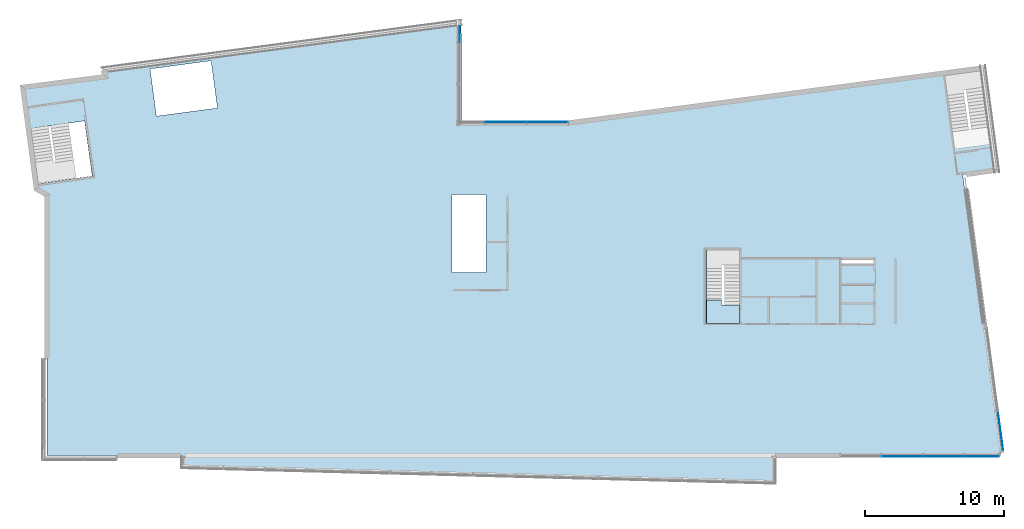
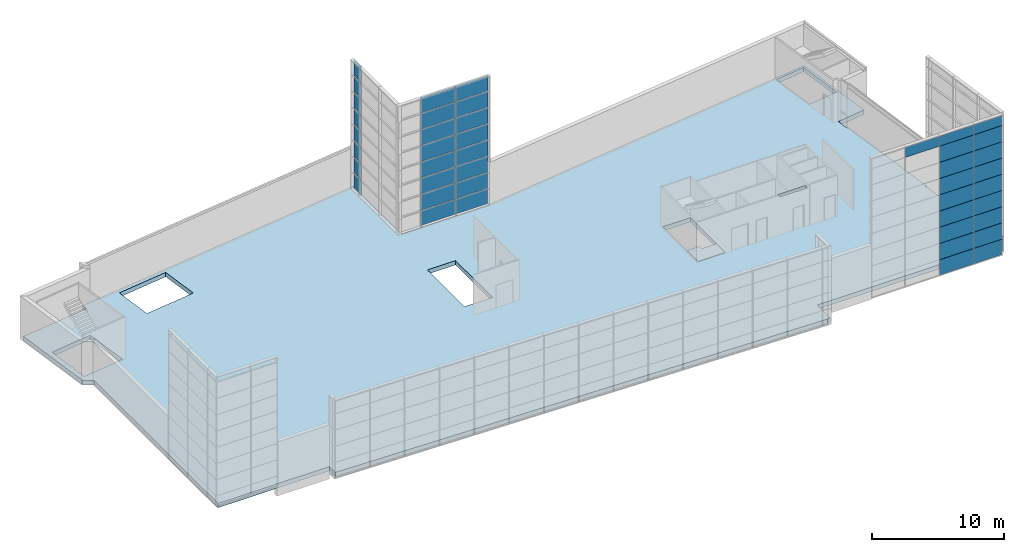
# One storey, part 17 of 27: 44 plates, 2 slabs, 6 openings, 4 elements without a shape of their own.
"""IFC2X3 building model written with IfcOpenShell, lengths in metres."""

from ifc_helpers import new_model, entity, si_unit, converted_unit, money_unit, direction, frame, origin_with_axes, place, context, subcontext, project, spatial, polyline, outline, extrude, material, layer, layer_set, layer_usage, type_object, element, aggregate, save


model = new_model("IFC2X3")

# Units and contexts
model_context = context("Model", 3, precision=1e-05, world=origin_with_axes(), true_north=direction((0.0, 1.0)))
body_context = subcontext(model_context, "Body", "Model", "MODEL_VIEW")
ifc_project = project(units=[si_unit("LENGTHUNIT", "METRE"), si_unit("AREAUNIT", "SQUARE_METRE"), si_unit("VOLUMEUNIT", "CUBIC_METRE"), converted_unit("PLANEANGLEUNIT", "DEGREE", entity("IfcPlaneAngleMeasure", 0.0174532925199), si_unit("PLANEANGLEUNIT", "RADIAN"), dimensions=[0, 0, 0, 0, 0, 0, 0]), si_unit("SOLIDANGLEUNIT", "STERADIAN"), money_unit("EUR"), converted_unit("TIMEUNIT", "Year", entity("IfcTimeMeasure", 31556926.0), si_unit("TIMEUNIT", "SECOND"), dimensions=[0, 0, 0, 0, 0, 0, 0]), si_unit("MASSUNIT", "GRAM"), si_unit("THERMODYNAMICTEMPERATUREUNIT", "DEGREE_CELSIUS"), si_unit("LUMINOUSINTENSITYUNIT", "LUMEN")], contexts=[model_context])

# Site, building, storey
site_placement = place(None, origin_with_axes())
site = spatial("IfcSite", under=ifc_project, at=site_placement, Name="Undefined", CompositionType="ELEMENT")
building_placement = place(site_placement, origin_with_axes())
building = spatial("IfcBuilding", under=site, at=building_placement, Name="Undefined", CompositionType="ELEMENT")
storey_placement = place(building_placement, frame((0.0, 0.0, 5.4), z_axis=(0.0, 0.0, 1.0), x_axis=(1.0, 0.0, 0.0)))
storey = spatial("IfcBuildingStorey", under=building, at=storey_placement, Name="R+1", CompositionType="ELEMENT", Elevation=5.4)

# Slab
ifc_material_1 = material(Name="% Ê25 359672764")
ifc_layer_1 = layer(ifc_material_1, 0.2, ventilated="UNKNOWN")
ifc_layer_set_1 = layer_set([ifc_layer_1], Name="% Ê25 359672764 0.2")
ifc_layer_usage_1 = layer_usage(ifc_layer_set_1, "AXIS3", "NEGATIVE", 0.2)
slab_type_1 = type_object("IfcSlabType", Name="% Ê25 359672764 200", PredefinedType="FLOOR")
slab_1_placement = place(storey_placement, frame((47.265, 9.3, 0.0), z_axis=(0.0, 0.0, 1.0), x_axis=(1.0, 0.0, 0.0)))
element("IfcSlab", 1, at=slab_1_placement, inside=storey, type_object=slab_type_1, material=ifc_layer_usage_1, Name="SLAB", ObjectType="200*31407", PredefinedType="FLOOR", context=body_context, shape_type="SweptSolid", body=[
    extrude(outline(polyline([(0.0, 0.0), (2.39499998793, 0.0), (2.39499998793, 1.34137656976), (1.08826671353, 1.34137656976), (1.08826671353, 1.69137656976), (0.0, 1.69137656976), (0.0, 0.0)])), frame((0.0, 0.0, -0.2), z_axis=(0.0, 0.0, 1.0), x_axis=(1.0, 0.0, 0.0)), (0.0, 0.0, 1.0), 0.2),
])

# Slab, openings
ifc_material_2 = material(Name="Finition sol - Parquet")
ifc_layer_2 = layer(ifc_material_2, 0.015, ventilated="UNKNOWN")
ifc_material_3 = material(Name="Struct. - Chape")
ifc_layer_3 = layer(ifc_material_3, 0.045, ventilated="UNKNOWN")
ifc_material_4 = material(Name="Isolation Int. - Polyur\x8ethane")
ifc_layer_4 = layer(ifc_material_4, 0.04, ventilated="UNKNOWN")
ifc_material_5 = material(Name="Struct. - B.A. coul\x8e")
ifc_layer_5 = layer(ifc_material_5, 0.18, ventilated="UNKNOWN")
ifc_material_6 = material(Name="Isolation - Polystyr\x8fne extrud\x8e")
ifc_layer_6 = layer(ifc_material_6, 0.1, ventilated="UNKNOWN")
ifc_material_7 = material(Name="Finition int - Enduit pl\x89tre")
ifc_layer_7 = layer(ifc_material_7, 0.02, ventilated="UNKNOWN")
ifc_layer_set_2 = layer_set([ifc_layer_2, ifc_layer_3, ifc_layer_4, ifc_layer_5, ifc_layer_6, ifc_layer_7], Name="5.0-Dalle& Chape avec sous-face isol\x8ee + bois (d\x8etaill\x8e)")
ifc_layer_usage_2 = layer_usage(ifc_layer_set_2, "AXIS3", "NEGATIVE", 0.4)
slab_type_2 = type_object("IfcSlabType", Name="5.0-Dalle& Chape avec sous-face isol\x8ee + bois (d\x8etaill\x8e) 400", PredefinedType="FLOOR")
slab_2_placement = place(storey_placement, frame((-1.93106549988, 26.3060489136, 0.0), z_axis=(0.0, 0.0, 1.0), x_axis=(1.0, 0.0, 0.0)))
slab_2 = element("IfcSlab", 2, at=slab_2_placement, inside=storey, type_object=slab_type_2, material=ifc_layer_usage_2, Name="SLAB", ObjectType="200*31407", PredefinedType="FLOOR", context=body_context, shape_type="SweptSolid", body=[
    extrude(outline(polyline([(0.0, 0.0), (0.975686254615, -7.31239886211), (1.73606549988, -7.76460235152), (1.73606549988, -26.5010481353), (11.4827447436, -26.5010481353), (11.4827447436, -27.3954981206), (53.9054972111, -28.4886697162), (53.9054972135, -28.4640088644), (54.1560652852, -28.4523480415), (54.1560654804, -26.5010489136), (70.3779493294, -26.5064751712), (70.3328827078, -26.0383576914), (69.133434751, -17.1013292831), (69.0860610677, -17.1051703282), (69.0726850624, -17.0060693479), (69.1837012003, -16.9912566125), (67.8990987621, -7.3636211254), (67.788061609, -7.37827743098), (67.6463141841, -6.31593133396), (70.0856348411, -5.96229649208), (69.1108208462, 1.39871774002), (39.1472831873, -2.58301230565), (31.5823969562, -2.62646119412), (31.5520595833, 4.66363038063), (5.89926228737, 1.26694263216), (5.96531416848, 0.771910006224), (0.0, 0.0)])), frame((0.0, 0.0, -0.4), z_axis=(0.0, 0.0, 1.0), x_axis=(1.0, 0.0, 0.0)), (0.0, 0.0, 1.0), 0.4),
])
opening_1_placement = place(slab_2_placement, origin_with_axes())
element("IfcOpeningElement", 3, at=opening_1_placement, cuts=slab_2, Name="Slab Opening", context=body_context, shape_type="SweptSolid", body=[
    extrude(outline(polyline([(1.35569683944, -6.89883312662), (4.99784324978, -6.38696750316), (4.44744077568, -2.41828389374), (0.846339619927, -2.93126827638), (1.35569683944, -6.89883312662)])), frame((0.0, 0.0, -0.4), z_axis=(0.0, 0.0, 1.0), x_axis=(1.0, 0.0, 0.0)), (0.0, 0.0, 1.0), 0.4),
])
opening_2_placement = place(slab_2_placement, origin_with_axes())
element("IfcOpeningElement", 4, at=opening_2_placement, cuts=slab_2, Name="Slab Opening", context=body_context, shape_type="SweptSolid", body=[
    extrude(outline(polyline([(9.61904479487, -2.0813231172), (14.0101296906, -1.49542770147), (13.5564905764, 1.9044416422), (9.16540568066, 1.31854622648), (9.61904479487, -2.0813231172)])), frame((0.0, 0.0, -0.4), z_axis=(0.0, 0.0, 1.0), x_axis=(1.0, 0.0, 0.0)), (0.0, 0.0, 1.0), 0.4),
])
opening_3_placement = place(slab_2_placement, origin_with_axes())
element("IfcOpeningElement", 5, at=opening_3_placement, cuts=slab_2, Name="Slab Opening", context=body_context, shape_type="SweptSolid", body=[
    extrude(outline(polyline([(33.3498058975, -13.3259802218), (33.3498298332, -7.72649718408), (30.8898315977, -7.72648603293), (30.8898315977, -13.3259802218), (33.3498058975, -13.3259802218)])), frame((0.0, 0.0, -0.4), z_axis=(0.0, 0.0, 1.0), x_axis=(1.0, 0.0, 0.0)), (0.0, 0.0, 1.0), 0.4),
])
opening_4_placement = place(slab_2_placement, origin_with_axes())
element("IfcOpeningElement", 6, at=opening_4_placement, cuts=slab_2, Name="Slab Opening", context=body_context, shape_type="SweptSolid", body=[
    extrude(outline(polyline([(49.1960654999, -11.6960836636), (49.1960654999, -17.0060489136), (51.5910654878, -17.0060489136), (51.5910654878, -11.6960836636), (49.1960654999, -11.6960836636)])), frame((0.0, 0.0, -0.4), z_axis=(0.0, 0.0, 1.0), x_axis=(1.0, 0.0, 0.0)), (0.0, 0.0, 1.0), 0.4),
])
opening_5_placement = place(slab_2_placement, origin_with_axes())
element("IfcOpeningElement", 7, at=opening_5_placement, cuts=slab_2, Name="Slab Opening", context=body_context, shape_type="SweptSolid", body=[
    extrude(outline(polyline([(58.8560654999, -12.3810489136), (58.8560654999, -12.7310489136), (61.2560654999, -12.7310489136), (61.2560654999, -12.3810489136), (58.8560654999, -12.3810489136)])), frame((0.0, 0.0, -0.4), z_axis=(0.0, 0.0, 1.0), x_axis=(1.0, 0.0, 0.0)), (0.0, 0.0, 1.0), 0.4),
])
opening_6_placement = place(slab_2_placement, origin_with_axes())
element("IfcOpeningElement", 8, at=opening_6_placement, cuts=slab_2, Name="Slab Opening", context=body_context, shape_type="SweptSolid", body=[
    extrude(outline(polyline([(66.8996301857, -3.20822175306), (69.4830926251, -2.86065248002), (68.9431202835, 1.17971852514), (66.3553150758, 0.835280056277), (66.8996301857, -3.20822175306)])), frame((0.0, 0.0, -0.4), z_axis=(0.0, 0.0, 1.0), x_axis=(1.0, 0.0, 0.0)), (0.0, 0.0, 1.0), 0.4),
])

# Curtain wall, plates
curtain_wall_type = type_object("IfcCurtainWallType", Name="Type de mur-rideau", PredefinedType="NOTDEFINED")
curtain_wall_1_placement = place(storey_placement, frame((35.8499996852, 23.7940983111, 0.0), z_axis=(0.0, 0.0, 1.0), x_axis=(1.0, 0.0, 0.0)))
curtain_wall_1 = element("IfcCurtainWall", 9, at=curtain_wall_1_placement, inside=storey, type_object=curtain_wall_type, Name="CurtainWall_01", ObjectType="CURTAIN WALL")
ifc_material_8 = material(Name="Background 7019220")
plate_type_1 = type_object("IfcPlateType", Name="Panneau principal 2920 x 1490 x 20", PredefinedType="NOTDEFINED")
plate_1_placement = place(curtain_wall_1_placement, frame((0.0, 0.0, 2.25), z_axis=(0.0, 0.0, 1.0), x_axis=(0.999999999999, 1.25925771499e-06, 0.0)))
plate_1 = element("IfcPlate", 10, at=plate_1_placement, type_object=plate_type_1, material=ifc_material_8, Name="Panel-Main-522", context=body_context, shape_type="SweptSolid", body=[
    extrude(outline(polyline([(0.07, 0.005), (2.99, 0.005), (2.99, 1.495), (0.07, 1.495), (0.07, 0.005)])), frame((1.5, 0.0, -0.75), z_axis=(0.0, 1.0, 0.0), x_axis=(-1.0, 0.0, 0.0)), (0.0, 0.0, 1.0), 0.02),
])
plate_2_placement = place(curtain_wall_1_placement, frame((0.0, 0.0, 5.25), z_axis=(0.0, 0.0, 1.0), x_axis=(0.999999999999, 1.25925771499e-06, 0.0)))
plate_2 = element("IfcPlate", 11, at=plate_2_placement, type_object=plate_type_1, material=ifc_material_8, Name="Panel-Main-524", context=body_context, shape_type="SweptSolid", body=[
    extrude(outline(polyline([(0.07, 0.005), (2.99, 0.005), (2.99, 1.495), (0.07, 1.495), (0.07, 0.005)])), frame((1.5, 0.0, -0.75), z_axis=(0.0, 1.0, 0.0), x_axis=(-1.0, 0.0, 0.0)), (0.0, 0.0, 1.0), 0.02),
])
plate_3_placement = place(curtain_wall_1_placement, frame((0.0, 0.0, 8.25), z_axis=(0.0, 0.0, 1.0), x_axis=(0.999999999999, 1.25925771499e-06, 0.0)))
plate_3 = element("IfcPlate", 12, at=plate_3_placement, type_object=plate_type_1, material=ifc_material_8, Name="Panel-Main-526", context=body_context, shape_type="SweptSolid", body=[
    extrude(outline(polyline([(0.07, 0.005), (2.99, 0.005), (2.99, 1.495), (0.07, 1.495), (0.07, 0.005)])), frame((1.5, 0.0, -0.75), z_axis=(0.0, 1.0, 0.0), x_axis=(-1.0, 0.0, 0.0)), (0.0, 0.0, 1.0), 0.02),
])

curtain_wall_2_placement = place(storey_placement, frame((58.35, -0.25, -1.0), z_axis=(0.0, 0.0, 1.0), x_axis=(1.0, 0.0, 0.0)))
curtain_wall_2 = element("IfcCurtainWall", 13, at=curtain_wall_2_placement, inside=storey, type_object=curtain_wall_type, Name="CurtainWall_01", ObjectType="CURTAIN WALL")
plate_type_2 = type_object("IfcPlateType", Name="Panneau secondaire 2980 x 1490 x 20", PredefinedType="NOTDEFINED")
plate_4_placement = place(curtain_wall_2_placement, frame((6.0, 0.0, 3.75), z_axis=(0.0, 0.0, 1.0), x_axis=(-1.0, 0.0, 0.0)))
plate_4 = element("IfcPlate", 14, at=plate_4_placement, type_object=plate_type_2, material=ifc_material_8, Name="Panel-Dist-024", context=body_context, shape_type="SweptSolid", body=[
    extrude(outline(polyline([(0.01, 0.005), (2.99, 0.005), (2.99, 1.495), (0.01, 1.495), (0.01, 0.005)])), frame((1.5, 0.0, -0.75), z_axis=(0.0, 1.0, 0.0), x_axis=(-1.0, 0.0, 0.0)), (0.0, 0.0, 1.0), 0.02),
])
plate_5_placement = place(curtain_wall_2_placement, frame((6.0, 0.0, 6.75), z_axis=(0.0, 0.0, 1.0), x_axis=(-1.0, 0.0, 0.0)))
plate_5 = element("IfcPlate", 15, at=plate_5_placement, type_object=plate_type_2, material=ifc_material_8, Name="Panel-Dist-024", context=body_context, shape_type="SweptSolid", body=[
    extrude(outline(polyline([(0.01, 0.005), (2.99, 0.005), (2.99, 1.495), (0.01, 1.495), (0.01, 0.005)])), frame((1.5, 0.0, -0.75), z_axis=(0.0, 1.0, 0.0), x_axis=(-1.0, 0.0, 0.0)), (0.0, 0.0, 1.0), 0.02),
])
plate_6_placement = place(curtain_wall_2_placement, frame((6.0, 0.0, 9.75), z_axis=(0.0, 0.0, 1.0), x_axis=(-1.0, 0.0, 0.0)))
plate_6 = element("IfcPlate", 16, at=plate_6_placement, type_object=plate_type_2, material=ifc_material_8, Name="Panel-Dist-024", context=body_context, shape_type="SweptSolid", body=[
    extrude(outline(polyline([(0.01, 0.005), (2.99, 0.005), (2.99, 1.495), (0.01, 1.495), (0.01, 0.005)])), frame((1.5, 0.0, -0.75), z_axis=(0.0, 1.0, 0.0), x_axis=(-1.0, 0.0, 0.0)), (0.0, 0.0, 1.0), 0.02),
])

# Plate
plate_7_placement = place(curtain_wall_1_placement, frame((-3.0, -3.7777729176e-06, 2.25), z_axis=(0.0, 0.0, 1.0), x_axis=(0.999999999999, 1.25925756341e-06, 0.0)))
plate_7 = element("IfcPlate", 17, at=plate_7_placement, type_object=plate_type_2, material=ifc_material_8, Name="Panel-Dist-143", context=body_context, shape_type="SweptSolid", body=[
    extrude(outline(polyline([(0.01, 0.005), (2.99, 0.005), (2.99, 1.495), (0.01, 1.495), (0.01, 0.005)])), frame((1.5, 0.0, -0.75), z_axis=(0.0, 1.0, 0.0), x_axis=(-1.0, 0.0, 0.0)), (0.0, 0.0, 1.0), 0.02),
])

plate_8_placement = place(curtain_wall_1_placement, frame((-3.0, -3.7777729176e-06, 3.75), z_axis=(0.0, 0.0, 1.0), x_axis=(0.999999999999, 1.25925756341e-06, 0.0)))
plate_8 = element("IfcPlate", 18, at=plate_8_placement, type_object=plate_type_2, material=ifc_material_8, Name="Panel-Dist-145", context=body_context, shape_type="SweptSolid", body=[
    extrude(outline(polyline([(0.01, 0.005), (2.99, 0.005), (2.99, 1.495), (0.01, 1.495), (0.01, 0.005)])), frame((1.5, 0.0, -0.75), z_axis=(0.0, 1.0, 0.0), x_axis=(-1.0, 0.0, 0.0)), (0.0, 0.0, 1.0), 0.02),
])

plate_9_placement = place(curtain_wall_1_placement, frame((-3.0, -3.7777729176e-06, 5.25), z_axis=(0.0, 0.0, 1.0), x_axis=(0.999999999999, 1.25925756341e-06, 0.0)))
plate_9 = element("IfcPlate", 19, at=plate_9_placement, type_object=plate_type_2, material=ifc_material_8, Name="Panel-Dist-147", context=body_context, shape_type="SweptSolid", body=[
    extrude(outline(polyline([(0.01, 0.005), (2.99, 0.005), (2.99, 1.495), (0.01, 1.495), (0.01, 0.005)])), frame((1.5, 0.0, -0.75), z_axis=(0.0, 1.0, 0.0), x_axis=(-1.0, 0.0, 0.0)), (0.0, 0.0, 1.0), 0.02),
])

plate_10_placement = place(curtain_wall_1_placement, frame((-3.0, -3.7777729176e-06, 6.75), z_axis=(0.0, 0.0, 1.0), x_axis=(0.999999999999, 1.25925756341e-06, 0.0)))
plate_10 = element("IfcPlate", 20, at=plate_10_placement, type_object=plate_type_2, material=ifc_material_8, Name="Panel-Dist-149", context=body_context, shape_type="SweptSolid", body=[
    extrude(outline(polyline([(0.01, 0.005), (2.99, 0.005), (2.99, 1.495), (0.01, 1.495), (0.01, 0.005)])), frame((1.5, 0.0, -0.75), z_axis=(0.0, 1.0, 0.0), x_axis=(-1.0, 0.0, 0.0)), (0.0, 0.0, 1.0), 0.02),
])

plate_11_placement = place(curtain_wall_1_placement, frame((-3.0, -3.7777729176e-06, 8.25), z_axis=(0.0, 0.0, 1.0), x_axis=(0.999999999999, 1.25925756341e-06, 0.0)))
plate_11 = element("IfcPlate", 21, at=plate_11_placement, type_object=plate_type_2, material=ifc_material_8, Name="Panel-Dist-151", context=body_context, shape_type="SweptSolid", body=[
    extrude(outline(polyline([(0.01, 0.005), (2.99, 0.005), (2.99, 1.495), (0.01, 1.495), (0.01, 0.005)])), frame((1.5, 0.0, -0.75), z_axis=(0.0, 1.0, 0.0), x_axis=(-1.0, 0.0, 0.0)), (0.0, 0.0, 1.0), 0.02),
])

plate_12_placement = place(curtain_wall_1_placement, frame((-3.0, -3.7777729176e-06, 9.75), z_axis=(0.0, 0.0, 1.0), x_axis=(0.999999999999, 1.25925756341e-06, 0.0)))
plate_12 = element("IfcPlate", 22, at=plate_12_placement, type_object=plate_type_2, material=ifc_material_8, Name="Panel-Dist-153", context=body_context, shape_type="SweptSolid", body=[
    extrude(outline(polyline([(0.01, 0.005), (2.99, 0.005), (2.99, 1.495), (0.01, 1.495), (0.01, 0.005)])), frame((1.5, 0.0, -0.75), z_axis=(0.0, 1.0, 0.0), x_axis=(-1.0, 0.0, 0.0)), (0.0, 0.0, 1.0), 0.02),
])

plate_type_3 = type_object("IfcPlateType", Name="Panneau principal 2980 x 1490 x 20", PredefinedType="NOTDEFINED")
plate_13_placement = place(curtain_wall_2_placement, frame((6.0, 0.0, 2.25), z_axis=(0.0, 0.0, 1.0), x_axis=(-1.0, 0.0, 0.0)))
plate_13 = element("IfcPlate", 23, at=plate_13_placement, type_object=plate_type_3, material=ifc_material_8, Name="Panel-Main-482", context=body_context, shape_type="SweptSolid", body=[
    extrude(outline(polyline([(0.01, 0.005), (2.99, 0.005), (2.99, 1.495), (0.01, 1.495), (0.01, 0.005)])), frame((1.5, 0.0, -0.75), z_axis=(0.0, 1.0, 0.0), x_axis=(-1.0, 0.0, 0.0)), (0.0, 0.0, 1.0), 0.02),
])

plate_14_placement = place(curtain_wall_2_placement, frame((6.0, 0.0, 5.25), z_axis=(0.0, 0.0, 1.0), x_axis=(-1.0, 0.0, 0.0)))
plate_14 = element("IfcPlate", 24, at=plate_14_placement, type_object=plate_type_3, material=ifc_material_8, Name="Panel-Main-482", context=body_context, shape_type="SweptSolid", body=[
    extrude(outline(polyline([(0.01, 0.005), (2.99, 0.005), (2.99, 1.495), (0.01, 1.495), (0.01, 0.005)])), frame((1.5, 0.0, -0.75), z_axis=(0.0, 1.0, 0.0), x_axis=(-1.0, 0.0, 0.0)), (0.0, 0.0, 1.0), 0.02),
])

plate_15_placement = place(curtain_wall_2_placement, frame((6.0, 0.0, 8.25), z_axis=(0.0, 0.0, 1.0), x_axis=(-1.0, 0.0, 0.0)))
plate_15 = element("IfcPlate", 25, at=plate_15_placement, type_object=plate_type_3, material=ifc_material_8, Name="Panel-Main-482", context=body_context, shape_type="SweptSolid", body=[
    extrude(outline(polyline([(0.01, 0.005), (2.99, 0.005), (2.99, 1.495), (0.01, 1.495), (0.01, 0.005)])), frame((1.5, 0.0, -0.75), z_axis=(0.0, 1.0, 0.0), x_axis=(-1.0, 0.0, 0.0)), (0.0, 0.0, 1.0), 0.02),
])

plate_16_placement = place(curtain_wall_2_placement, frame((6.0, 0.0, 11.25), z_axis=(0.0, 0.0, 1.0), x_axis=(-1.0, 0.0, 0.0)))
plate_16 = element("IfcPlate", 26, at=plate_16_placement, type_object=plate_type_3, material=ifc_material_8, Name="Panel-Main-482", context=body_context, shape_type="SweptSolid", body=[
    extrude(outline(polyline([(0.01, 0.005), (2.99, 0.005), (2.99, 1.495), (0.01, 1.495), (0.01, 0.005)])), frame((1.5, 0.0, -0.75), z_axis=(0.0, 1.0, 0.0), x_axis=(-1.0, 0.0, 0.0)), (0.0, 0.0, 1.0), 0.02),
])

plate_type_4 = type_object("IfcPlateType", Name="Panneau secondaire 2980 x 925 x 20", PredefinedType="NOTDEFINED")
plate_17_placement = place(curtain_wall_2_placement, frame((3.0, 0.0, 12.5000000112), z_axis=(0.0, 0.0, 1.0), x_axis=(-1.0, 0.0, 0.0)))
plate_17 = element("IfcPlate", 27, at=plate_17_placement, type_object=plate_type_4, material=ifc_material_8, Name="Panel-Dist-033", context=body_context, shape_type="SweptSolid", body=[
    extrude(outline(polyline([(0.01, 0.005), (2.99, 0.005), (2.99, 0.930000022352), (0.01, 0.930000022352), (0.01, 0.005)])), frame((1.5, 0.0, -0.500000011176), z_axis=(0.0, 1.0, 0.0), x_axis=(-1.0, 0.0, 0.0)), (0.0, 0.0, 1.0), 0.02),
])

plate_18_placement = place(curtain_wall_2_placement, frame((6.0, 0.0, 12.5000000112), z_axis=(0.0, 0.0, 1.0), x_axis=(-1.0, 0.0, 0.0)))
plate_18 = element("IfcPlate", 28, at=plate_18_placement, type_object=plate_type_4, material=ifc_material_8, Name="Panel-Dist-034", context=body_context, shape_type="SweptSolid", body=[
    extrude(outline(polyline([(0.01, 0.005), (2.99, 0.005), (2.99, 0.930000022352), (0.01, 0.930000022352), (0.01, 0.005)])), frame((1.5, 0.0, -0.500000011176), z_axis=(0.0, 1.0, 0.0), x_axis=(-1.0, 0.0, 0.0)), (0.0, 0.0, 1.0), 0.02),
])

plate_type_5 = type_object("IfcPlateType", Name="Panneau secondaire 2920 x 1490 x 20", PredefinedType="NOTDEFINED")
plate_19_placement = place(curtain_wall_1_placement, frame((0.0, 0.0, 3.75), z_axis=(0.0, 0.0, 1.0), x_axis=(0.999999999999, 1.25925771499e-06, 0.0)))
plate_19 = element("IfcPlate", 29, at=plate_19_placement, type_object=plate_type_5, material=ifc_material_8, Name="Panel-Dist-144", context=body_context, shape_type="SweptSolid", body=[
    extrude(outline(polyline([(0.07, 0.005), (2.99, 0.005), (2.99, 1.495), (0.07, 1.495), (0.07, 0.005)])), frame((1.5, 0.0, -0.75), z_axis=(0.0, 1.0, 0.0), x_axis=(-1.0, 0.0, 0.0)), (0.0, 0.0, 1.0), 0.02),
])

plate_20_placement = place(curtain_wall_1_placement, frame((0.0, 0.0, 6.75), z_axis=(0.0, 0.0, 1.0), x_axis=(0.999999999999, 1.25925771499e-06, 0.0)))
plate_20 = element("IfcPlate", 30, at=plate_20_placement, type_object=plate_type_5, material=ifc_material_8, Name="Panel-Dist-148", context=body_context, shape_type="SweptSolid", body=[
    extrude(outline(polyline([(0.07, 0.005), (2.99, 0.005), (2.99, 1.495), (0.07, 1.495), (0.07, 0.005)])), frame((1.5, 0.0, -0.75), z_axis=(0.0, 1.0, 0.0), x_axis=(-1.0, 0.0, 0.0)), (0.0, 0.0, 1.0), 0.02),
])

plate_21_placement = place(curtain_wall_1_placement, frame((0.0, 0.0, 9.75), z_axis=(0.0, 0.0, 1.0), x_axis=(0.999999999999, 1.25925771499e-06, 0.0)))
plate_21 = element("IfcPlate", 31, at=plate_21_placement, type_object=plate_type_5, material=ifc_material_8, Name="Panel-Dist-152", context=body_context, shape_type="SweptSolid", body=[
    extrude(outline(polyline([(0.07, 0.005), (2.99, 0.005), (2.99, 1.495), (0.07, 1.495), (0.07, 0.005)])), frame((1.5, 0.0, -0.75), z_axis=(0.0, 1.0, 0.0), x_axis=(-1.0, 0.0, 0.0)), (0.0, 0.0, 1.0), 0.02),
])

# Curtain wall, plate
curtain_wall_3_placement = place(storey_placement, frame((68.4320700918, 1.51988738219, -1.0), z_axis=(0.0, 0.0, 1.0), x_axis=(1.0, 0.0, 0.0)))
curtain_wall_3 = element("IfcCurtainWall", 32, at=curtain_wall_3_placement, inside=storey, type_object=curtain_wall_type, Name="CurtainWall_01", ObjectType="CURTAIN WALL")
plate_type_6 = type_object("IfcPlateType", Name="Panneau secondaire 2920 x 1425 x 20", PredefinedType="NOTDEFINED")
plate_22_placement = place(curtain_wall_3_placement, frame((0.0, 0.0, 0.75), z_axis=(0.0, 0.0, 1.0), x_axis=(0.132255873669, -0.991215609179, 0.0)))
plate_22 = element("IfcPlate", 33, at=plate_22_placement, type_object=plate_type_6, material=ifc_material_8, Name="Panel-Dist-024", context=body_context, shape_type="SweptSolid", body=[
    extrude(outline(polyline([(0.07, 0.07), (2.99, 0.07), (2.99, 1.495), (0.07, 1.495), (0.07, 0.07)])), frame((1.5, 0.0, -0.75), z_axis=(0.0, 1.0, 0.0), x_axis=(-1.0, 0.0, 0.0)), (0.0, 0.0, 1.0), 0.02),
])
aggregate(curtain_wall_3, [plate_22])

# Plate
plate_23_placement = place(curtain_wall_1_placement, frame((0.0, 0.0, 0.75), z_axis=(0.0, 0.0, 1.0), x_axis=(0.999999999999, 1.25925771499e-06, 0.0)))
plate_23 = element("IfcPlate", 34, at=plate_23_placement, type_object=plate_type_6, material=ifc_material_8, Name="Panel-Dist-140", context=body_context, shape_type="SweptSolid", body=[
    extrude(outline(polyline([(0.07, 0.07), (2.99, 0.07), (2.99, 1.495), (0.07, 1.495), (0.07, 0.07)])), frame((1.5, 0.0, -0.75), z_axis=(0.0, 1.0, 0.0), x_axis=(-1.0, 0.0, 0.0)), (0.0, 0.0, 1.0), 0.02),
])

plate_type_7 = type_object("IfcPlateType", Name="Panneau secondaire 2980 x 1425 x 20", PredefinedType="NOTDEFINED")
plate_24_placement = place(curtain_wall_2_placement, frame((6.0, 0.0, 0.75), z_axis=(0.0, 0.0, 1.0), x_axis=(-1.0, 0.0, 0.0)))
plate_24 = element("IfcPlate", 35, at=plate_24_placement, type_object=plate_type_7, material=ifc_material_8, Name="Panel-Dist-024", context=body_context, shape_type="SweptSolid", body=[
    extrude(outline(polyline([(0.01, 0.07), (2.99, 0.07), (2.99, 1.495), (0.01, 1.495), (0.01, 0.07)])), frame((1.5, 0.0, -0.75), z_axis=(0.0, 1.0, 0.0), x_axis=(-1.0, 0.0, 0.0)), (0.0, 0.0, 1.0), 0.02),
])

plate_25_placement = place(curtain_wall_1_placement, frame((-3.0, -3.7777729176e-06, 0.75), z_axis=(0.0, 0.0, 1.0), x_axis=(0.999999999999, 1.25925756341e-06, 0.0)))
plate_25 = element("IfcPlate", 36, at=plate_25_placement, type_object=plate_type_7, material=ifc_material_8, Name="Panel-Dist-141", context=body_context, shape_type="SweptSolid", body=[
    extrude(outline(polyline([(0.01, 0.07), (2.99, 0.07), (2.99, 1.495), (0.01, 1.495), (0.01, 0.07)])), frame((1.5, 0.0, -0.75), z_axis=(0.0, 1.0, 0.0), x_axis=(-1.0, 0.0, 0.0)), (0.0, 0.0, 1.0), 0.02),
])

plate_26_placement = place(curtain_wall_1_placement, frame((-3.0, -3.7777729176e-06, 11.25), z_axis=(0.0, 0.0, 1.0), x_axis=(0.999999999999, 1.25925756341e-06, 0.0)))
plate_26 = element("IfcPlate", 37, at=plate_26_placement, type_object=plate_type_7, material=ifc_material_8, Name="Panel-Dist-155", context=body_context, shape_type="SweptSolid", body=[
    extrude(outline(polyline([(0.01, 0.005), (2.99, 0.005), (2.99, 1.43), (0.01, 1.43), (0.01, 0.005)])), frame((1.5, 0.0, -0.75), z_axis=(0.0, 1.0, 0.0), x_axis=(-1.0, 0.0, 0.0)), (0.0, 0.0, 1.0), 0.02),
])

plate_type_8 = type_object("IfcPlateType", Name="Panneau principal 2920 x 1425 x 20", PredefinedType="NOTDEFINED")
plate_27_placement = place(curtain_wall_1_placement, frame((0.0, 0.0, 11.25), z_axis=(0.0, 0.0, 1.0), x_axis=(0.999999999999, 1.25925771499e-06, 0.0)))
plate_27 = element("IfcPlate", 38, at=plate_27_placement, type_object=plate_type_8, material=ifc_material_8, Name="Panel-Main-528", context=body_context, shape_type="SweptSolid", body=[
    extrude(outline(polyline([(0.07, 0.005), (2.99, 0.005), (2.99, 1.43), (0.07, 1.43), (0.07, 0.005)])), frame((1.5, 0.0, -0.75), z_axis=(0.0, 1.0, 0.0), x_axis=(-1.0, 0.0, 0.0)), (0.0, 0.0, 1.0), 0.02),
])

aggregate(curtain_wall_1, [plate_23, plate_25, plate_1, plate_7, plate_19, plate_8, plate_2, plate_9, plate_20, plate_10, plate_3, plate_11, plate_21, plate_12, plate_27, plate_26])

# Curtain wall, plates
curtain_wall_4_placement = place(storey_placement, frame((29.5, 25.04409, 0.0), z_axis=(0.0, 0.0, 1.0), x_axis=(1.0, 0.0, 0.0)))
curtain_wall_4 = element("IfcCurtainWall", 39, at=curtain_wall_4_placement, inside=storey, type_object=curtain_wall_type, Name="CurtainWall_01", ObjectType="CURTAIN WALL")
plate_type_9 = type_object("IfcPlateType", Name="Panneau secondaire 1125 x 1425 x 20", PredefinedType="NOTDEFINED")
plate_28_placement = place(curtain_wall_4_placement, frame((0.0, 5.10264506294, 0.75), z_axis=(0.0, 0.0, 1.0), x_axis=(0.0, -1.0, 0.0)))
plate_28 = element("IfcPlate", 40, at=plate_28_placement, type_object=plate_type_9, material=ifc_material_8, Name="Panel-Dist-170", context=body_context, shape_type="SweptSolid", body=[
    extrude(outline(polyline([(0.01, 0.07), (1.13529012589, 0.07), (1.13529012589, 1.495), (0.01, 1.495), (0.01, 0.07)])), frame((0.602645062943, 0.0, -0.75), z_axis=(0.0, 1.0, 0.0), x_axis=(-1.0, 0.0, 0.0)), (0.0, 0.0, 1.0), 0.02),
])
plate_type_10 = type_object("IfcPlateType", Name="Panneau principal 1125 x 1490 x 20", PredefinedType="NOTDEFINED")
plate_29_placement = place(curtain_wall_4_placement, frame((0.0, 5.10264506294, 2.25), z_axis=(0.0, 0.0, 1.0), x_axis=(0.0, -1.0, 0.0)))
plate_29 = element("IfcPlate", 41, at=plate_29_placement, type_object=plate_type_10, material=ifc_material_8, Name="Panel-Main-539", context=body_context, shape_type="SweptSolid", body=[
    extrude(outline(polyline([(0.01, 0.005), (1.13529012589, 0.005), (1.13529012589, 1.495), (0.01, 1.495), (0.01, 0.005)])), frame((0.602645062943, 0.0, -0.75), z_axis=(0.0, 1.0, 0.0), x_axis=(-1.0, 0.0, 0.0)), (0.0, 0.0, 1.0), 0.02),
])
plate_30_placement = place(curtain_wall_4_placement, frame((0.0, 5.10264506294, 5.25), z_axis=(0.0, 0.0, 1.0), x_axis=(0.0, -1.0, 0.0)))
plate_30 = element("IfcPlate", 42, at=plate_30_placement, type_object=plate_type_10, material=ifc_material_8, Name="Panel-Main-541", context=body_context, shape_type="SweptSolid", body=[
    extrude(outline(polyline([(0.01, 0.005), (1.13529012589, 0.005), (1.13529012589, 1.495), (0.01, 1.495), (0.01, 0.005)])), frame((0.602645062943, 0.0, -0.75), z_axis=(0.0, 1.0, 0.0), x_axis=(-1.0, 0.0, 0.0)), (0.0, 0.0, 1.0), 0.02),
])
plate_31_placement = place(curtain_wall_4_placement, frame((0.0, 5.10264506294, 8.25), z_axis=(0.0, 0.0, 1.0), x_axis=(0.0, -1.0, 0.0)))
plate_31 = element("IfcPlate", 43, at=plate_31_placement, type_object=plate_type_10, material=ifc_material_8, Name="Panel-Main-543", context=body_context, shape_type="SweptSolid", body=[
    extrude(outline(polyline([(0.01, 0.005), (1.13529012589, 0.005), (1.13529012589, 1.495), (0.01, 1.495), (0.01, 0.005)])), frame((0.602645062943, 0.0, -0.75), z_axis=(0.0, 1.0, 0.0), x_axis=(-1.0, 0.0, 0.0)), (0.0, 0.0, 1.0), 0.02),
])
plate_type_11 = type_object("IfcPlateType", Name="Panneau secondaire 1125 x 1490 x 20", PredefinedType="NOTDEFINED")
plate_32_placement = place(curtain_wall_4_placement, frame((0.0, 5.10264506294, 3.75), z_axis=(0.0, 0.0, 1.0), x_axis=(0.0, -1.0, 0.0)))
plate_32 = element("IfcPlate", 44, at=plate_32_placement, type_object=plate_type_11, material=ifc_material_8, Name="Panel-Dist-174", context=body_context, shape_type="SweptSolid", body=[
    extrude(outline(polyline([(0.01, 0.005), (1.13529012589, 0.005), (1.13529012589, 1.495), (0.01, 1.495), (0.01, 0.005)])), frame((0.602645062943, 0.0, -0.75), z_axis=(0.0, 1.0, 0.0), x_axis=(-1.0, 0.0, 0.0)), (0.0, 0.0, 1.0), 0.02),
])
plate_33_placement = place(curtain_wall_4_placement, frame((0.0, 5.10264506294, 6.75), z_axis=(0.0, 0.0, 1.0), x_axis=(0.0, -1.0, 0.0)))
plate_33 = element("IfcPlate", 45, at=plate_33_placement, type_object=plate_type_11, material=ifc_material_8, Name="Panel-Dist-178", context=body_context, shape_type="SweptSolid", body=[
    extrude(outline(polyline([(0.01, 0.005), (1.13529012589, 0.005), (1.13529012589, 1.495), (0.01, 1.495), (0.01, 0.005)])), frame((0.602645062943, 0.0, -0.75), z_axis=(0.0, 1.0, 0.0), x_axis=(-1.0, 0.0, 0.0)), (0.0, 0.0, 1.0), 0.02),
])
plate_34_placement = place(curtain_wall_4_placement, frame((0.0, 5.10264506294, 9.75), z_axis=(0.0, 0.0, 1.0), x_axis=(0.0, -1.0, 0.0)))
plate_34 = element("IfcPlate", 46, at=plate_34_placement, type_object=plate_type_11, material=ifc_material_8, Name="Panel-Dist-182", context=body_context, shape_type="SweptSolid", body=[
    extrude(outline(polyline([(0.01, 0.005), (1.13529012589, 0.005), (1.13529012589, 1.495), (0.01, 1.495), (0.01, 0.005)])), frame((0.602645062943, 0.0, -0.75), z_axis=(0.0, 1.0, 0.0), x_axis=(-1.0, 0.0, 0.0)), (0.0, 0.0, 1.0), 0.02),
])
plate_type_12 = type_object("IfcPlateType", Name="Panneau principal 1125 x 1425 x 20", PredefinedType="NOTDEFINED")
plate_35_placement = place(curtain_wall_4_placement, frame((0.0, 5.10264506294, 11.25), z_axis=(0.0, 0.0, 1.0), x_axis=(0.0, -1.0, 0.0)))
plate_35 = element("IfcPlate", 47, at=plate_35_placement, type_object=plate_type_12, material=ifc_material_8, Name="Panel-Main-545", context=body_context, shape_type="SweptSolid", body=[
    extrude(outline(polyline([(0.01, 0.005), (1.13529012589, 0.005), (1.13529012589, 1.43), (0.01, 1.43), (0.01, 0.005)])), frame((0.602645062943, 0.0, -0.75), z_axis=(0.0, 1.0, 0.0), x_axis=(-1.0, 0.0, 0.0)), (0.0, 0.0, 1.0), 0.02),
])
aggregate(curtain_wall_4, [plate_28, plate_29, plate_32, plate_30, plate_33, plate_31, plate_34, plate_35])

# Plate
plate_type_13 = type_object("IfcPlateType", Name="Panneau secondaire 2453 x 1425 x 20", PredefinedType="NOTDEFINED")
plate_36_placement = place(curtain_wall_2_placement, frame((8.766324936, 0.0, 0.75), z_axis=(0.0, 0.0, 1.0), x_axis=(-1.0, 0.0, 0.0)))
plate_36 = element("IfcPlate", 48, at=plate_36_placement, type_object=plate_type_13, material=ifc_material_8, Name="Panel-Dist-024", context=body_context, shape_type="SweptSolid", body=[
    extrude(outline(polyline([(0.01, 0.07), (2.462649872, 0.07), (2.462649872, 1.495), (0.01, 1.495), (0.01, 0.07)])), frame((1.266324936, 0.0, -0.75), z_axis=(0.0, 1.0, 0.0), x_axis=(-1.0, 0.0, 0.0)), (0.0, 0.0, 1.0), 0.02),
])

plate_type_14 = type_object("IfcPlateType", Name="Panneau secondaire 2453 x 1490 x 20", PredefinedType="NOTDEFINED")
plate_37_placement = place(curtain_wall_2_placement, frame((8.766324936, 0.0, 2.25), z_axis=(0.0, 0.0, 1.0), x_axis=(-1.0, 0.0, 0.0)))
plate_37 = element("IfcPlate", 49, at=plate_37_placement, type_object=plate_type_14, material=ifc_material_8, Name="Panel-Dist-024", context=body_context, shape_type="SweptSolid", body=[
    extrude(outline(polyline([(0.01, 0.005), (2.462649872, 0.005), (2.462649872, 1.495), (0.01, 1.495), (0.01, 0.005)])), frame((1.266324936, 0.0, -0.75), z_axis=(0.0, 1.0, 0.0), x_axis=(-1.0, 0.0, 0.0)), (0.0, 0.0, 1.0), 0.02),
])

plate_38_placement = place(curtain_wall_2_placement, frame((8.766324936, 0.0, 3.75), z_axis=(0.0, 0.0, 1.0), x_axis=(-1.0, 0.0, 0.0)))
plate_38 = element("IfcPlate", 50, at=plate_38_placement, type_object=plate_type_14, material=ifc_material_8, Name="Panel-Dist-024", context=body_context, shape_type="SweptSolid", body=[
    extrude(outline(polyline([(0.01, 0.005), (2.462649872, 0.005), (2.462649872, 1.495), (0.01, 1.495), (0.01, 0.005)])), frame((1.266324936, 0.0, -0.75), z_axis=(0.0, 1.0, 0.0), x_axis=(-1.0, 0.0, 0.0)), (0.0, 0.0, 1.0), 0.02),
])

plate_39_placement = place(curtain_wall_2_placement, frame((8.766324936, 0.0, 5.25), z_axis=(0.0, 0.0, 1.0), x_axis=(-1.0, 0.0, 0.0)))
plate_39 = element("IfcPlate", 51, at=plate_39_placement, type_object=plate_type_14, material=ifc_material_8, Name="Panel-Dist-024", context=body_context, shape_type="SweptSolid", body=[
    extrude(outline(polyline([(0.01, 0.005), (2.462649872, 0.005), (2.462649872, 1.495), (0.01, 1.495), (0.01, 0.005)])), frame((1.266324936, 0.0, -0.75), z_axis=(0.0, 1.0, 0.0), x_axis=(-1.0, 0.0, 0.0)), (0.0, 0.0, 1.0), 0.02),
])

plate_40_placement = place(curtain_wall_2_placement, frame((8.766324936, 0.0, 6.75), z_axis=(0.0, 0.0, 1.0), x_axis=(-1.0, 0.0, 0.0)))
plate_40 = element("IfcPlate", 52, at=plate_40_placement, type_object=plate_type_14, material=ifc_material_8, Name="Panel-Dist-024", context=body_context, shape_type="SweptSolid", body=[
    extrude(outline(polyline([(0.01, 0.005), (2.462649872, 0.005), (2.462649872, 1.495), (0.01, 1.495), (0.01, 0.005)])), frame((1.266324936, 0.0, -0.75), z_axis=(0.0, 1.0, 0.0), x_axis=(-1.0, 0.0, 0.0)), (0.0, 0.0, 1.0), 0.02),
])

plate_41_placement = place(curtain_wall_2_placement, frame((8.766324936, 0.0, 8.25), z_axis=(0.0, 0.0, 1.0), x_axis=(-1.0, 0.0, 0.0)))
plate_41 = element("IfcPlate", 53, at=plate_41_placement, type_object=plate_type_14, material=ifc_material_8, Name="Panel-Dist-024", context=body_context, shape_type="SweptSolid", body=[
    extrude(outline(polyline([(0.01, 0.005), (2.462649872, 0.005), (2.462649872, 1.495), (0.01, 1.495), (0.01, 0.005)])), frame((1.266324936, 0.0, -0.75), z_axis=(0.0, 1.0, 0.0), x_axis=(-1.0, 0.0, 0.0)), (0.0, 0.0, 1.0), 0.02),
])

plate_42_placement = place(curtain_wall_2_placement, frame((8.766324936, 0.0, 9.75), z_axis=(0.0, 0.0, 1.0), x_axis=(-1.0, 0.0, 0.0)))
plate_42 = element("IfcPlate", 54, at=plate_42_placement, type_object=plate_type_14, material=ifc_material_8, Name="Panel-Dist-024", context=body_context, shape_type="SweptSolid", body=[
    extrude(outline(polyline([(0.01, 0.005), (2.462649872, 0.005), (2.462649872, 1.495), (0.01, 1.495), (0.01, 0.005)])), frame((1.266324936, 0.0, -0.75), z_axis=(0.0, 1.0, 0.0), x_axis=(-1.0, 0.0, 0.0)), (0.0, 0.0, 1.0), 0.02),
])

plate_43_placement = place(curtain_wall_2_placement, frame((8.766324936, 0.0, 11.25), z_axis=(0.0, 0.0, 1.0), x_axis=(-1.0, 0.0, 0.0)))
plate_43 = element("IfcPlate", 55, at=plate_43_placement, type_object=plate_type_14, material=ifc_material_8, Name="Panel-Dist-024", context=body_context, shape_type="SweptSolid", body=[
    extrude(outline(polyline([(0.01, 0.005), (2.462649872, 0.005), (2.462649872, 1.495), (0.01, 1.495), (0.01, 0.005)])), frame((1.266324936, 0.0, -0.75), z_axis=(0.0, 1.0, 0.0), x_axis=(-1.0, 0.0, 0.0)), (0.0, 0.0, 1.0), 0.02),
])

plate_type_15 = type_object("IfcPlateType", Name="Panneau secondaire 2453 x 925 x 20", PredefinedType="NOTDEFINED")
plate_44_placement = place(curtain_wall_2_placement, frame((8.76632494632, 0.0, 12.5000000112), z_axis=(0.0, 0.0, 1.0), x_axis=(-1.0, 0.0, 0.0)))
plate_44 = element("IfcPlate", 56, at=plate_44_placement, type_object=plate_type_15, material=ifc_material_8, Name="Panel-Dist-035", context=body_context, shape_type="SweptSolid", body=[
    extrude(outline(polyline([(0.01, 0.005), (2.4626498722, 0.005), (2.46264991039, 0.930000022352), (0.01, 0.930000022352), (0.01, 0.005)])), frame((1.26632494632, 0.0, -0.500000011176), z_axis=(0.0, 1.0, 0.0), x_axis=(-1.0, 0.0, 0.0)), (0.0, 0.0, 1.0), 0.02),
])

aggregate(curtain_wall_2, [plate_24, plate_13, plate_4, plate_14, plate_5, plate_15, plate_6, plate_16, plate_36, plate_37, plate_38, plate_39, plate_40, plate_41, plate_42, plate_43, plate_17, plate_18, plate_44])

save(model, "model.ifc")
